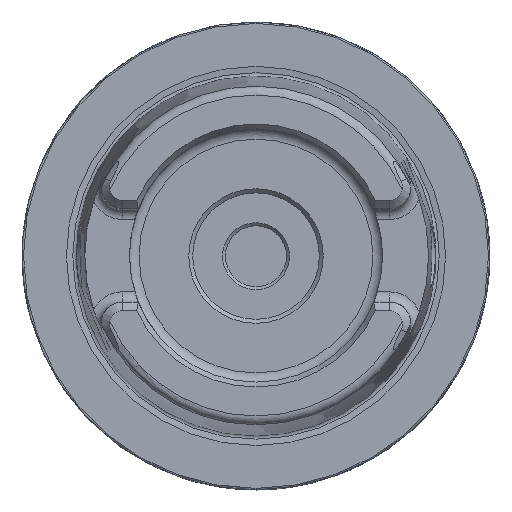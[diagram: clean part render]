
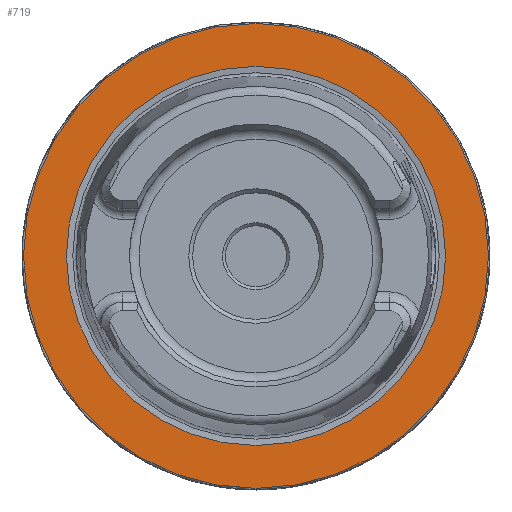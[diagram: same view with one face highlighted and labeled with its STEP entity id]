
A CAD part, top view. The second image highlights one B-rep face of the part: STEP entity #719.
In plain terms, the highlighted planar face has unit normal (0, 0, 1).
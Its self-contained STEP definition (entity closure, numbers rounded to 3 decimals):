
#335=FACE_BOUND('',#1326,.T.);
#336=FACE_BOUND('',#1327,.T.);
#719=ADVANCED_FACE('',(#335,#336),#931,.T.);
#931=PLANE('',#4571);
#1326=EDGE_LOOP('',(#2323));
#1327=EDGE_LOOP('',(#2324));
#1633=CIRCLE('',#4569,25.502);
#1634=CIRCLE('',#4570,31.27);
#2323=ORIENTED_EDGE('',*,*,#3661,.F.);
#2324=ORIENTED_EDGE('',*,*,#3662,.T.);
#3175=VERTEX_POINT('',#7927);
#3176=VERTEX_POINT('',#7929);
#3661=EDGE_CURVE('',#3175,#3175,#1633,.T.);
#3662=EDGE_CURVE('',#3176,#3176,#1634,.T.);
#4569=AXIS2_PLACEMENT_3D('',#7926,#5468,#5469);
#4570=AXIS2_PLACEMENT_3D('',#7928,#5470,#5471);
#4571=AXIS2_PLACEMENT_3D('',#7930,#5472,#5473);
#5468=DIRECTION('',(0.,0.,1.));
#5469=DIRECTION('',(0.,-1.,0.));
#5470=DIRECTION('',(0.,0.,1.));
#5471=DIRECTION('',(0.,-1.,0.));
#5472=DIRECTION('',(0.,0.,1.));
#5473=DIRECTION('',(0.,-1.,0.));
#7926=CARTESIAN_POINT('',(0.,0.,0.));
#7927=CARTESIAN_POINT('',(0.,-25.502,0.));
#7928=CARTESIAN_POINT('',(0.,0.,0.));
#7929=CARTESIAN_POINT('',(0.,-31.27,0.));
#7930=CARTESIAN_POINT('',(0.,0.,0.));
